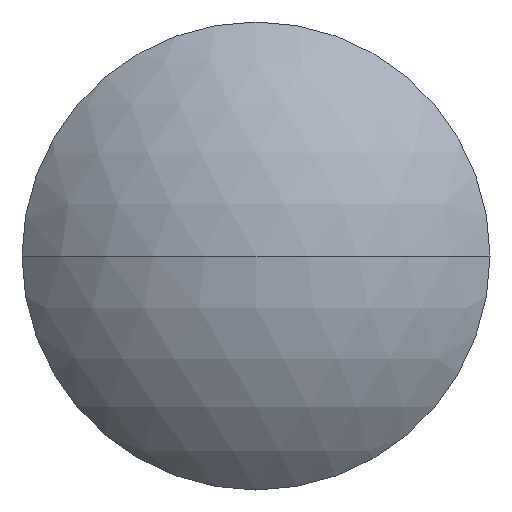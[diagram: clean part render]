
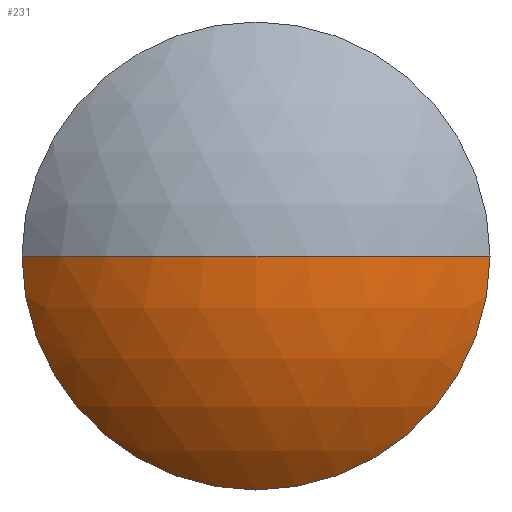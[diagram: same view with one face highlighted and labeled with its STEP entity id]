
A CAD part, left-side view. The second image highlights one B-rep face of the part: STEP entity #231.
In plain terms, the highlighted spherical face has radius 27.779 mm.
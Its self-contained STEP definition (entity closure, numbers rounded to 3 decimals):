
#4 = CARTESIAN_POINT ( 'NONE',  ( -2.5, 0., 0. ) ) ;
#28 = DIRECTION ( 'NONE',  ( 0., 1., 0. ) ) ;
#42 = ORIENTED_EDGE ( 'NONE', *, *, #50, .T. ) ;
#46 = DIRECTION ( 'NONE',  ( 0., 1., 0. ) ) ;
#50 = EDGE_CURVE ( 'NONE', #197, #339, #261, .T. ) ;
#52 = CARTESIAN_POINT ( 'NONE',  ( -11., 0., 0. ) ) ;
#53 = DIRECTION ( 'NONE',  ( 0., 0., -1. ) ) ;
#57 = DIRECTION ( 'NONE',  ( -1., 0., 0. ) ) ;
#65 = VERTEX_POINT ( 'NONE', #318 ) ;
#75 = AXIS2_PLACEMENT_3D ( 'NONE', #264, #79, #46 ) ;
#79 = DIRECTION ( 'NONE',  ( 0., 0., -1. ) ) ;
#81 = AXIS2_PLACEMENT_3D ( 'NONE', #349, #287, #104 ) ;
#82 = DIRECTION ( 'NONE',  ( 0., 0., 1. ) ) ;
#83 = CARTESIAN_POINT ( 'NONE',  ( -2.5, 0., -20. ) ) ;
#104 = DIRECTION ( 'NONE',  ( 1., 0., 0. ) ) ;
#106 = DIRECTION ( 'NONE',  ( 0., 0., 1. ) ) ;
#139 = AXIS2_PLACEMENT_3D ( 'NONE', #350, #168, #106 ) ;
#143 = ORIENTED_EDGE ( 'NONE', *, *, #273, .T. ) ;
#153 = EDGE_CURVE ( 'NONE', #65, #339, #236, .T. ) ;
#165 = FACE_OUTER_BOUND ( 'NONE', #181, .T. ) ;
#168 = DIRECTION ( 'NONE',  ( -1., 0., 0. ) ) ;
#170 = ORIENTED_EDGE ( 'NONE', *, *, #265, .T. ) ;
#171 = ORIENTED_EDGE ( 'NONE', *, *, #153, .F. ) ;
#181 = EDGE_LOOP ( 'NONE', ( #170, #143, #42, #171 ) ) ;
#197 = VERTEX_POINT ( 'NONE', #272 ) ;
#210 = SPHERICAL_SURFACE ( 'NONE', #325, 27.779 ) ;
#213 = CIRCLE ( 'NONE', #139, 20. ) ;
#216 = CARTESIAN_POINT ( 'NONE',  ( 16.779, 0., 0. ) ) ;
#231 = ADVANCED_FACE ( 'NONE', ( #165 ), #210, .T. ) ;
#236 = CIRCLE ( 'NONE', #81, 27.779 ) ;
#261 = CIRCLE ( 'NONE', #75, 27.779 ) ;
#264 = CARTESIAN_POINT ( 'NONE',  ( 16.779, 0., 0. ) ) ;
#265 = EDGE_CURVE ( 'NONE', #65, #302, #344, .T. ) ;
#272 = CARTESIAN_POINT ( 'NONE',  ( -2.5, -20., 0. ) ) ;
#273 = EDGE_CURVE ( 'NONE', #302, #197, #213, .T. ) ;
#287 = DIRECTION ( 'NONE',  ( 0., 0., 1. ) ) ;
#290 = AXIS2_PLACEMENT_3D ( 'NONE', #4, #57, #82 ) ;
#302 = VERTEX_POINT ( 'NONE', #83 ) ;
#318 = CARTESIAN_POINT ( 'NONE',  ( -2.5, 20., 0. ) ) ;
#325 = AXIS2_PLACEMENT_3D ( 'NONE', #216, #53, #28 ) ;
#339 = VERTEX_POINT ( 'NONE', #52 ) ;
#344 = CIRCLE ( 'NONE', #290, 20. ) ;
#349 = CARTESIAN_POINT ( 'NONE',  ( 16.779, 0., 0. ) ) ;
#350 = CARTESIAN_POINT ( 'NONE',  ( -2.5, 0., 0. ) ) ;
